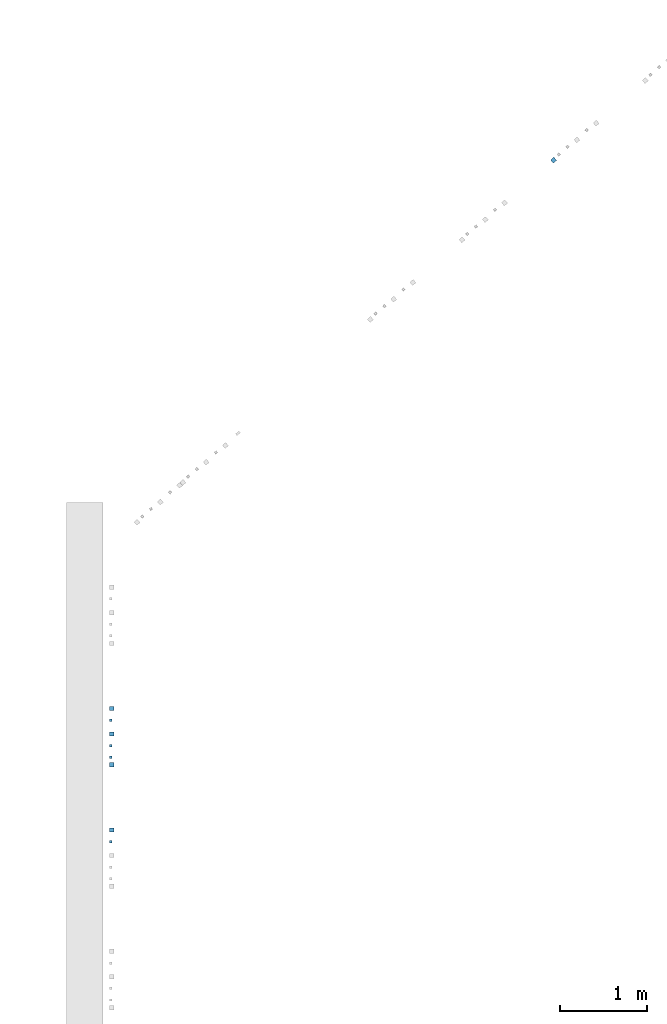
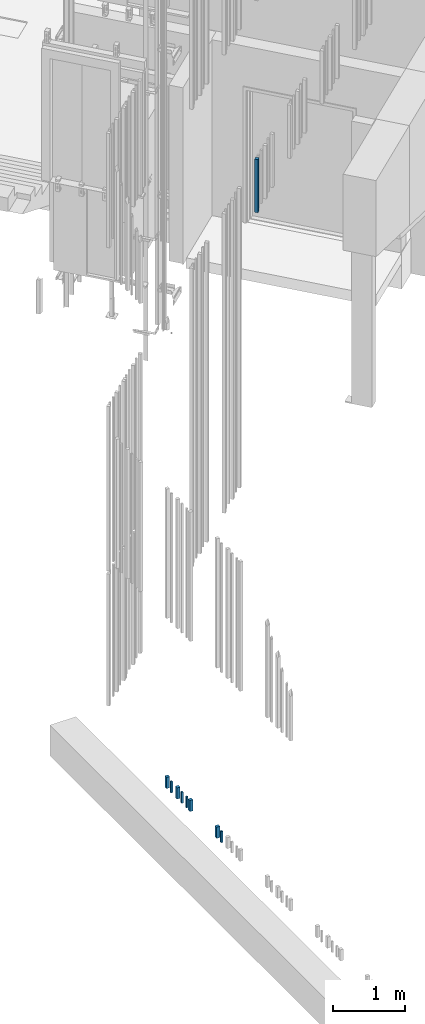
# One storey, part 88 of 124: 9 walls.
"""IFC2X3 building model written with IfcOpenShell, lengths in millimetres."""

from ifc_helpers import new_model, entity, si_unit, converted_unit, derived_unit, money_unit, direction, frame, origin_with_axes, place, context, subcontext, project, spatial, faceted_brep, material, type_object, element, save


model = new_model("IFC2X3")

# Units and contexts
model_context = context("Model", 3, precision=1e-05, world=origin_with_axes(), true_north=direction((0.0, 1.0)))
body_context = subcontext(model_context, "Body", "Model", "MODEL_VIEW")
ifc_project = project(units=[si_unit("LENGTHUNIT", "METRE", prefix="MILLI"), si_unit("AREAUNIT", "SQUARE_METRE"), si_unit("VOLUMEUNIT", "CUBIC_METRE"), converted_unit("PLANEANGLEUNIT", "DEGREE", entity("IfcPlaneAngleMeasure", 0.0174532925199), si_unit("PLANEANGLEUNIT", "RADIAN"), dimensions=[0, 0, 0, 0, 0, 0, 0]), si_unit("SOLIDANGLEUNIT", "STERADIAN"), money_unit("EUR"), converted_unit("TIMEUNIT", "Year", entity("IfcTimeMeasure", 31556926.0), si_unit("TIMEUNIT", "SECOND"), dimensions=[0, 0, 1, 0, 0, 0, 0]), si_unit("MASSUNIT", "GRAM", prefix="KILO"), si_unit("THERMODYNAMICTEMPERATUREUNIT", "DEGREE_CELSIUS"), si_unit("LUMINOUSINTENSITYUNIT", "LUMEN"), si_unit("ENERGYUNIT", "JOULE", prefix="MEGA"), derived_unit("THERMALCONDUCTANCEUNIT", [(si_unit("POWERUNIT", "WATT"), 1), (si_unit("LENGTHUNIT", "METRE"), -1), (si_unit("THERMODYNAMICTEMPERATUREUNIT", "KELVIN"), -1)]), derived_unit("SPECIFICHEATCAPACITYUNIT", [(si_unit("ENERGYUNIT", "JOULE"), 1), (si_unit("MASSUNIT", "GRAM", prefix="KILO"), -1), (si_unit("THERMODYNAMICTEMPERATUREUNIT", "KELVIN"), -1)]), derived_unit("MASSDENSITYUNIT", [(si_unit("MASSUNIT", "GRAM", prefix="KILO"), 1), (si_unit("VOLUMEUNIT", "CUBIC_METRE"), -1)])], contexts=[model_context])

# Site, building, storey
site_placement = place(None, origin_with_axes())
site = spatial("IfcSite", under=ifc_project, at=site_placement, Name="Site", CompositionType="ELEMENT")
building_placement = place(site_placement, origin_with_axes())
building = spatial("IfcBuilding", under=site, at=building_placement, Name="Building", CompositionType="ELEMENT")
storey_placement = place(building_placement, frame((0.0, 0.0, -1615.0), z_axis=(0.0, 0.0, 1.0), x_axis=(1.0, 0.0, 0.0)))
storey = spatial("IfcBuildingStorey", under=building, at=storey_placement, Name="0  korrus", CompositionType="ELEMENT", Elevation=-1615.0)

# Walls
ifc_material = material(Name="Site specified")
wall_type = type_object("IfcWallType", Name="Puitfassaadi ribistik", PredefinedType="NOTDEFINED")
wall_1_placement = place(storey_placement, frame((144909.369636, 70598.4098622, 5915.0), z_axis=(0.0, 0.0, 1.0), x_axis=(-0.754709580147, -0.656059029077, 0.0)))
element("IfcWall", 1, at=wall_1_placement, inside=storey, type_object=wall_type, material=ifc_material, Name="Site specified", context=body_context, shape_type="Brep", body=[
    faceted_brep([(-25.0, 25.0, 906.0), (25.0, 25.0, 906.0), (25.0, 25.0, 0.0), (-25.0, 25.0, 0.0), (-25.0, -25.0, 906.0), (25.0, -25.0, 906.0), (25.0, -25.0, 0.0), (-25.0, -25.0, 0.0)], [[[0, 1, 2, 3]], [[4, 5, 1, 0]], [[1, 5, 6, 2]], [[7, 3, 2, 6]], [[4, 0, 3, 7]], [[5, 4, 7, 6]]]),
])
for number, where, z_axis, x_axis, name in (
    (2, (139812.00001, 63980.9818061, 1715.00000015), (0.0, 0.0, 1.0), (5.16795808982e-08, -1.0, 0.0), "Site specified"),
    (3, (139811.999995, 64274.9818039, 1715.00000015), (0.0, 0.0, 1.0), (5.16795808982e-08, -1.0, 0.0), "Site specified"),
):
    element("IfcWall", number, at=place(storey_placement, frame(where, z_axis=z_axis, x_axis=x_axis)), inside=storey, type_object=wall_type, material=ifc_material, Name=name, context=body_context, shape_type="Brep", body=[
        faceted_brep([(25.0, 25.0, 190.0), (25.0, 25.0, 0.0), (-25.0, 25.0, 0.0), (-25.0, 25.0, 190.0), (25.0, -25.0, 190.0), (25.0, -25.0, 0.0), (-25.0, -25.0, 0.0), (-25.0, -25.0, 190.0)], [[[0, 1, 2, 3]], [[4, 5, 1, 0]], [[2, 1, 5, 6]], [[3, 2, 6, 7]], [[4, 0, 3, 7]], [[7, 6, 5, 4]]]),
    ])
wall_2_placement = place(storey_placement, frame((139801.000002, 64139.9793129, 1715.00000015), z_axis=(0.0, 0.0, 1.0), x_axis=(5.16795808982e-08, -1.0, 0.0)))
element("IfcWall", 4, at=wall_2_placement, inside=storey, type_object=wall_type, material=ifc_material, Name="Site specified", context=body_context, shape_type="Brep", body=[
    faceted_brep([(14.0, 14.0, 190.0), (14.0, 14.0, 0.0), (-14.0, 14.0, 0.0), (-14.0, 14.0, 190.0), (14.0, -14.0, 190.0), (14.0, -14.0, 0.0), (-14.0, -14.0, 0.0), (-14.0, -14.0, 190.0)], [[[0, 1, 2, 3]], [[4, 5, 1, 0]], [[2, 1, 5, 6]], [[3, 2, 6, 7]], [[4, 0, 3, 7]], [[7, 6, 5, 4]]]),
])
wall_3_placement = place(storey_placement, frame((139812.000028, 63624.9761727, 1715.00000015), z_axis=(0.0, 0.0, 1.0), x_axis=(5.16795808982e-08, -1.0, 0.0)))
element("IfcWall", 5, at=wall_3_placement, inside=storey, type_object=wall_type, material=ifc_material, Name="Site specified", context=body_context, shape_type="Brep", body=[
    faceted_brep([(25.0, 25.0, 190.0), (25.0, 25.0, 0.0), (-25.0, 25.0, 0.0), (-25.0, 25.0, 190.0), (25.0, -25.0, 190.0), (25.0, -25.0, 0.0), (-25.0, -25.0, 0.0), (-25.0, -25.0, 190.0)], [[[0, 1, 2, 3]], [[4, 5, 1, 0]], [[2, 1, 5, 6]], [[3, 2, 6, 7]], [[4, 0, 3, 7]], [[7, 6, 5, 4]]]),
])
for number, where, z_axis, x_axis, name in (
    (6, (139801.000024, 63713.9793426, 1715.00000015), (0.0, 0.0, 1.0), (5.16795808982e-08, -1.0, 0.0), "Site specified"),
    (7, (139801.000017, 63846.9793417, 1715.00000015), (0.0, 0.0, 1.0), (5.16795808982e-08, -1.0, 0.0), "Site specified"),
):
    element("IfcWall", number, at=place(storey_placement, frame(where, z_axis=z_axis, x_axis=x_axis)), inside=storey, type_object=wall_type, material=ifc_material, Name=name, context=body_context, shape_type="Brep", body=[
        faceted_brep([(14.0, 14.0, 190.0), (14.0, 14.0, 0.0), (-14.0, 14.0, 0.0), (-14.0, 14.0, 190.0), (14.0, -14.0, 190.0), (14.0, -14.0, 0.0), (-14.0, -14.0, 0.0), (-14.0, -14.0, 190.0)], [[[0, 1, 2, 3]], [[4, 5, 1, 0]], [[2, 1, 5, 6]], [[3, 2, 6, 7]], [[4, 0, 3, 7]], [[7, 6, 5, 4]]]),
    ])
wall_4_placement = place(storey_placement, frame((139811.999995, 62874.9818039, 1715.00000015), z_axis=(0.0, 0.0, 1.0), x_axis=(5.16795808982e-08, -1.0, 0.0)))
element("IfcWall", 8, at=wall_4_placement, inside=storey, type_object=wall_type, material=ifc_material, Name="Site specified", context=body_context, shape_type="Brep", body=[
    faceted_brep([(25.0, 25.0, 190.0), (25.0, 25.0, 0.0), (-25.0, 25.0, 0.0), (-25.0, 25.0, 190.0), (25.0, -25.0, 190.0), (25.0, -25.0, 0.0), (-25.0, -25.0, 0.0), (-25.0, -25.0, 190.0)], [[[0, 1, 2, 3]], [[4, 5, 1, 0]], [[2, 1, 5, 6]], [[3, 2, 6, 7]], [[4, 0, 3, 7]], [[7, 6, 5, 4]]]),
])
wall_5_placement = place(storey_placement, frame((139801.000002, 62739.9793129, 1715.00000015), z_axis=(0.0, 0.0, 1.0), x_axis=(5.16795808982e-08, -1.0, 0.0)))
element("IfcWall", 9, at=wall_5_placement, inside=storey, type_object=wall_type, material=ifc_material, Name="Site specified", context=body_context, shape_type="Brep", body=[
    faceted_brep([(14.0, 14.0, 190.0), (14.0, 14.0, 0.0), (-14.0, 14.0, 0.0), (-14.0, 14.0, 190.0), (14.0, -14.0, 190.0), (14.0, -14.0, 0.0), (-14.0, -14.0, 0.0), (-14.0, -14.0, 190.0)], [[[0, 1, 2, 3]], [[4, 5, 1, 0]], [[2, 1, 5, 6]], [[3, 2, 6, 7]], [[4, 0, 3, 7]], [[7, 6, 5, 4]]]),
])

save(model, "model.ifc")
